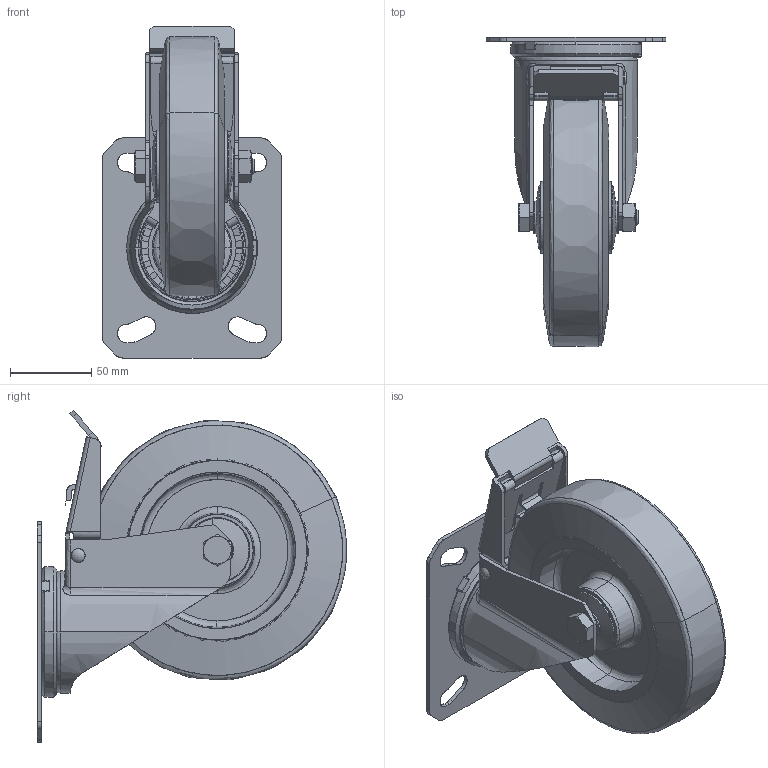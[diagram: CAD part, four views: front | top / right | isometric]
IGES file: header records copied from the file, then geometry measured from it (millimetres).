
Start section: SolidWorks IGES file using analytic representation for surfaces
Global section: file name: S:\Tyokansio\ML\3DWEBMALLIT\IGES\401180_IGES.IGS; native system: SolidWorks 2011; preprocessor: SolidWorks 2011; author: markola; date: 120604.130453; units: millimetre
Bounding box: 110 x 189.73 x 203.73 mm (x, y, z)
Surface area: 155954.4 mm2 (no closed solid volume)
Topology: 0 solids, 0 shells, 466 faces, 6333 edges, 6328 vertices
Faces by surface type: bspline 281, revolution 185
